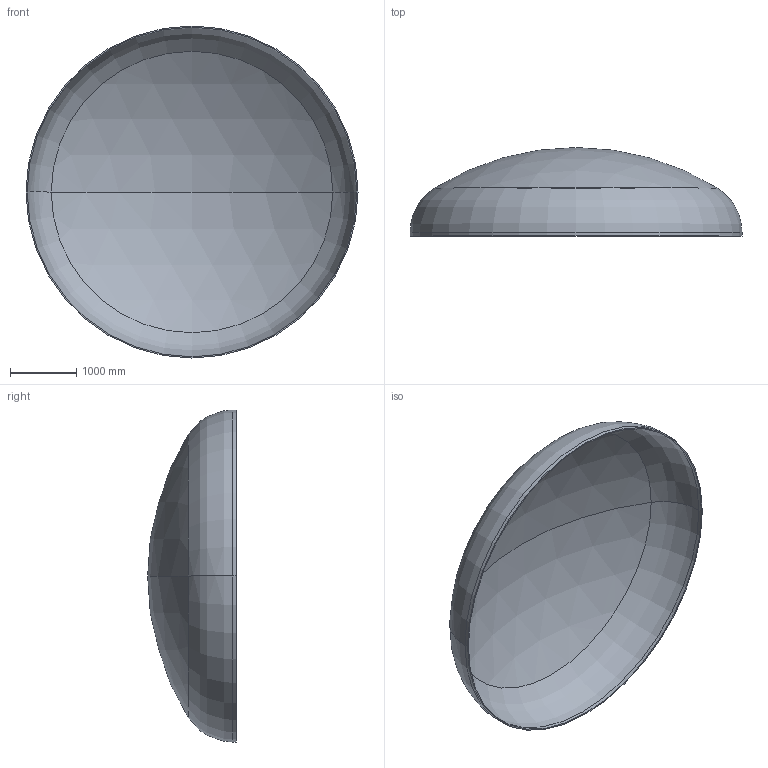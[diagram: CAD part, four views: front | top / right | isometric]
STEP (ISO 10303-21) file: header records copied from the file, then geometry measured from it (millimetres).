
FILE_DESCRIPTION (( 'STEP AP203' ), '1' );
FILE_NAME ('DIN 28013 Korbbogenform_-_Boden DIN 28013 - 5000 x 55 - I - s=18.step', '2016-07-02T00:10:06', ( '' ), ( '' ), 'SwSTEP 2.0', 'SolidWorks 2013', '' );
FILE_SCHEMA (( 'CONFIG_CONTROL_DESIGN' ));
Length unit declared in the file: millimetre
Products named in the file (1): DIN 28013 Korbbogenform_-_Boden DIN 28013 - 5000 x 55 - I - s=18
Bounding box: 5000 x 1334.03 x 5000 mm (x, y, z)
Volume: 502693567.9 mm3; surface area: 56137222.4 mm2
Topology: 1 solids, 1 shells, 13 faces, 24 edges, 14 vertices
Faces by surface type: torus 4, cylinder 4, sphere 4, plane 1
Entity records: 407 total; most frequent: DIRECTION 72, CARTESIAN_POINT 52, ORIENTED_EDGE 48, AXIS2_PLACEMENT_3D 34, EDGE_CURVE 24, CIRCLE 20, VERTEX_POINT 14, EDGE_LOOP 14
